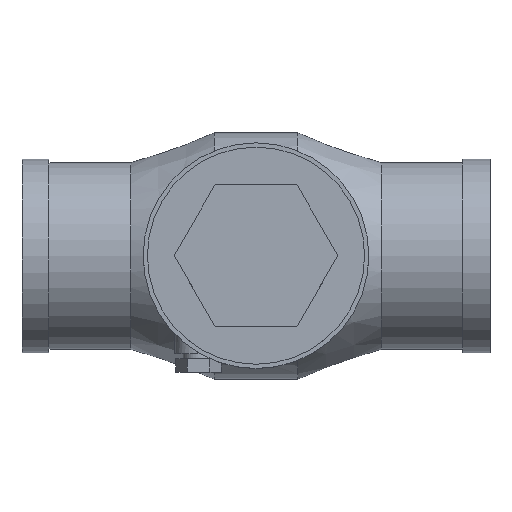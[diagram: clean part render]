
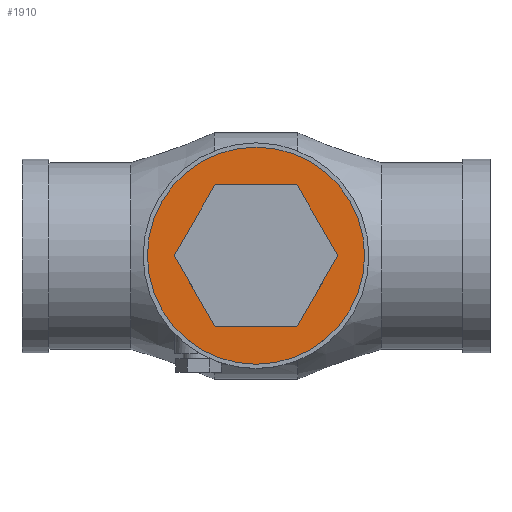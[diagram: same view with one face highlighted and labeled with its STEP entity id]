
A CAD part, top view. The second image highlights one B-rep face of the part: STEP entity #1910.
In plain terms, the highlighted planar face has unit normal (0, 0, 1).
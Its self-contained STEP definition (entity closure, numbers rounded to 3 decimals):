
#1910 = ADVANCED_FACE('',(#1911,#1951),#1924,.T.);
#1911 = FACE_BOUND('',#1912,.T.);
#1912 = EDGE_LOOP('',(#1913));
#1913 = ORIENTED_EDGE('',*,*,#1914,.F.);
#1914 = EDGE_CURVE('',#1915,#1915,#1917,.T.);
#1915 = VERTEX_POINT('',#1916);
#1916 = CARTESIAN_POINT('',(3.045,0.,1.67));
#1917 = SURFACE_CURVE('',#1918,(#1923,#1939),.PCURVE_S1.);
#1918 = CIRCLE('',#1919,0.965);
#1919 = AXIS2_PLACEMENT_3D('',#1920,#1921,#1922);
#1920 = CARTESIAN_POINT('',(2.08,0.,1.67));
#1921 = DIRECTION('',(0.,0.,-1.));
#1922 = DIRECTION('',(1.,0.,0.));
#1923 = PCURVE('',#1924,#1929);
#1924 = PLANE('',#1925);
#1925 = AXIS2_PLACEMENT_3D('',#1926,#1927,#1928);
#1926 = CARTESIAN_POINT('',(2.08,0.,1.67));
#1927 = DIRECTION('',(0.,0.,1.));
#1928 = DIRECTION('',(1.,0.,-0.));
#1929 = DEFINITIONAL_REPRESENTATION('',(#1930),#1938);
#1930 = ( BOUNDED_CURVE() B_SPLINE_CURVE(2,(#1931,#1932,#1933,#1934,
#1935,#1936,#1937),.UNSPECIFIED.,.T.,.F.) B_SPLINE_CURVE_WITH_KNOTS((1,2
    ,2,2,2,1),(-2.094,0.,2.094,4.189,
6.283,8.378),.UNSPECIFIED.) CURVE() 
GEOMETRIC_REPRESENTATION_ITEM() RATIONAL_B_SPLINE_CURVE((1.,0.5,1.,0.5,
1.,0.5,1.)) REPRESENTATION_ITEM('') );
#1931 = CARTESIAN_POINT('',(0.965,0.));
#1932 = CARTESIAN_POINT('',(0.965,-1.671));
#1933 = CARTESIAN_POINT('',(-0.483,-0.836));
#1934 = CARTESIAN_POINT('',(-1.93,0.));
#1935 = CARTESIAN_POINT('',(-0.483,0.836));
#1936 = CARTESIAN_POINT('',(0.965,1.671));
#1937 = CARTESIAN_POINT('',(0.965,0.));
#1938 = ( GEOMETRIC_REPRESENTATION_CONTEXT(2) 
PARAMETRIC_REPRESENTATION_CONTEXT() REPRESENTATION_CONTEXT('2D SPACE',''
  ) );
#1939 = PCURVE('',#1940,#1945);
#1940 = CYLINDRICAL_SURFACE('',#1941,0.965);
#1941 = AXIS2_PLACEMENT_3D('',#1942,#1943,#1944);
#1942 = CARTESIAN_POINT('',(2.08,0.,1.575));
#1943 = DIRECTION('',(0.,0.,1.));
#1944 = DIRECTION('',(1.,0.,-0.));
#1945 = DEFINITIONAL_REPRESENTATION('',(#1946),#1950);
#1946 = LINE('',#1947,#1948);
#1947 = CARTESIAN_POINT('',(6.283,0.095));
#1948 = VECTOR('',#1949,1.);
#1949 = DIRECTION('',(-1.,0.));
#1950 = ( GEOMETRIC_REPRESENTATION_CONTEXT(2) 
PARAMETRIC_REPRESENTATION_CONTEXT() REPRESENTATION_CONTEXT('2D SPACE',''
  ) );
#1951 = FACE_BOUND('',#1952,.T.);
#1952 = EDGE_LOOP('',(#1953,#1983,#2011,#2039,#2067,#2095));
#1953 = ORIENTED_EDGE('',*,*,#1954,.F.);
#1954 = EDGE_CURVE('',#1955,#1957,#1959,.T.);
#1955 = VERTEX_POINT('',#1956);
#1956 = CARTESIAN_POINT('',(1.716,-0.63,1.67));
#1957 = VERTEX_POINT('',#1958);
#1958 = CARTESIAN_POINT('',(2.444,-0.63,1.67));
#1959 = SURFACE_CURVE('',#1960,(#1964,#1971),.PCURVE_S1.);
#1960 = LINE('',#1961,#1962);
#1961 = CARTESIAN_POINT('',(1.716,-0.63,1.67));
#1962 = VECTOR('',#1963,1.);
#1963 = DIRECTION('',(1.,0.,0.));
#1964 = PCURVE('',#1924,#1965);
#1965 = DEFINITIONAL_REPRESENTATION('',(#1966),#1970);
#1966 = LINE('',#1967,#1968);
#1967 = CARTESIAN_POINT('',(-0.364,-0.63));
#1968 = VECTOR('',#1969,1.);
#1969 = DIRECTION('',(1.,0.));
#1970 = ( GEOMETRIC_REPRESENTATION_CONTEXT(2) 
PARAMETRIC_REPRESENTATION_CONTEXT() REPRESENTATION_CONTEXT('2D SPACE',''
  ) );
#1971 = PCURVE('',#1972,#1977);
#1972 = PLANE('',#1973);
#1973 = AXIS2_PLACEMENT_3D('',#1974,#1975,#1976);
#1974 = CARTESIAN_POINT('',(2.08,-0.63,1.67));
#1975 = DIRECTION('',(0.,-1.,0.));
#1976 = DIRECTION('',(1.,0.,0.));
#1977 = DEFINITIONAL_REPRESENTATION('',(#1978),#1982);
#1978 = LINE('',#1979,#1980);
#1979 = CARTESIAN_POINT('',(-0.364,0.));
#1980 = VECTOR('',#1981,1.);
#1981 = DIRECTION('',(1.,0.));
#1982 = ( GEOMETRIC_REPRESENTATION_CONTEXT(2) 
PARAMETRIC_REPRESENTATION_CONTEXT() REPRESENTATION_CONTEXT('2D SPACE',''
  ) );
#1983 = ORIENTED_EDGE('',*,*,#1984,.F.);
#1984 = EDGE_CURVE('',#1985,#1955,#1987,.T.);
#1985 = VERTEX_POINT('',#1986);
#1986 = CARTESIAN_POINT('',(1.353,0.,1.67));
#1987 = SURFACE_CURVE('',#1988,(#1992,#1999),.PCURVE_S1.);
#1988 = LINE('',#1989,#1990);
#1989 = CARTESIAN_POINT('',(1.353,0.,1.67));
#1990 = VECTOR('',#1991,1.);
#1991 = DIRECTION('',(0.5,-0.866,0.));
#1992 = PCURVE('',#1924,#1993);
#1993 = DEFINITIONAL_REPRESENTATION('',(#1994),#1998);
#1994 = LINE('',#1995,#1996);
#1995 = CARTESIAN_POINT('',(-0.727,0.));
#1996 = VECTOR('',#1997,1.);
#1997 = DIRECTION('',(0.5,-0.866));
#1998 = ( GEOMETRIC_REPRESENTATION_CONTEXT(2) 
PARAMETRIC_REPRESENTATION_CONTEXT() REPRESENTATION_CONTEXT('2D SPACE',''
  ) );
#1999 = PCURVE('',#2000,#2005);
#2000 = PLANE('',#2001);
#2001 = AXIS2_PLACEMENT_3D('',#2002,#2003,#2004);
#2002 = CARTESIAN_POINT('',(1.534,-0.315,1.67));
#2003 = DIRECTION('',(-0.866,-0.5,0.));
#2004 = DIRECTION('',(0.5,-0.866,0.));
#2005 = DEFINITIONAL_REPRESENTATION('',(#2006),#2010);
#2006 = LINE('',#2007,#2008);
#2007 = CARTESIAN_POINT('',(-0.364,0.));
#2008 = VECTOR('',#2009,1.);
#2009 = DIRECTION('',(1.,0.));
#2010 = ( GEOMETRIC_REPRESENTATION_CONTEXT(2) 
PARAMETRIC_REPRESENTATION_CONTEXT() REPRESENTATION_CONTEXT('2D SPACE',''
  ) );
#2011 = ORIENTED_EDGE('',*,*,#2012,.F.);
#2012 = EDGE_CURVE('',#2013,#1985,#2015,.T.);
#2013 = VERTEX_POINT('',#2014);
#2014 = CARTESIAN_POINT('',(1.716,0.63,1.67));
#2015 = SURFACE_CURVE('',#2016,(#2020,#2027),.PCURVE_S1.);
#2016 = LINE('',#2017,#2018);
#2017 = CARTESIAN_POINT('',(1.716,0.63,1.67));
#2018 = VECTOR('',#2019,1.);
#2019 = DIRECTION('',(-0.5,-0.866,0.));
#2020 = PCURVE('',#1924,#2021);
#2021 = DEFINITIONAL_REPRESENTATION('',(#2022),#2026);
#2022 = LINE('',#2023,#2024);
#2023 = CARTESIAN_POINT('',(-0.364,0.63));
#2024 = VECTOR('',#2025,1.);
#2025 = DIRECTION('',(-0.5,-0.866));
#2026 = ( GEOMETRIC_REPRESENTATION_CONTEXT(2) 
PARAMETRIC_REPRESENTATION_CONTEXT() REPRESENTATION_CONTEXT('2D SPACE',''
  ) );
#2027 = PCURVE('',#2028,#2033);
#2028 = PLANE('',#2029);
#2029 = AXIS2_PLACEMENT_3D('',#2030,#2031,#2032);
#2030 = CARTESIAN_POINT('',(1.534,0.315,1.67));
#2031 = DIRECTION('',(-0.866,0.5,0.));
#2032 = DIRECTION('',(-0.5,-0.866,0.));
#2033 = DEFINITIONAL_REPRESENTATION('',(#2034),#2038);
#2034 = LINE('',#2035,#2036);
#2035 = CARTESIAN_POINT('',(-0.364,0.));
#2036 = VECTOR('',#2037,1.);
#2037 = DIRECTION('',(1.,0.));
#2038 = ( GEOMETRIC_REPRESENTATION_CONTEXT(2) 
PARAMETRIC_REPRESENTATION_CONTEXT() REPRESENTATION_CONTEXT('2D SPACE',''
  ) );
#2039 = ORIENTED_EDGE('',*,*,#2040,.F.);
#2040 = EDGE_CURVE('',#2041,#2013,#2043,.T.);
#2041 = VERTEX_POINT('',#2042);
#2042 = CARTESIAN_POINT('',(2.444,0.63,1.67));
#2043 = SURFACE_CURVE('',#2044,(#2048,#2055),.PCURVE_S1.);
#2044 = LINE('',#2045,#2046);
#2045 = CARTESIAN_POINT('',(2.444,0.63,1.67));
#2046 = VECTOR('',#2047,1.);
#2047 = DIRECTION('',(-1.,0.,0.));
#2048 = PCURVE('',#1924,#2049);
#2049 = DEFINITIONAL_REPRESENTATION('',(#2050),#2054);
#2050 = LINE('',#2051,#2052);
#2051 = CARTESIAN_POINT('',(0.364,0.63));
#2052 = VECTOR('',#2053,1.);
#2053 = DIRECTION('',(-1.,0.));
#2054 = ( GEOMETRIC_REPRESENTATION_CONTEXT(2) 
PARAMETRIC_REPRESENTATION_CONTEXT() REPRESENTATION_CONTEXT('2D SPACE',''
  ) );
#2055 = PCURVE('',#2056,#2061);
#2056 = PLANE('',#2057);
#2057 = AXIS2_PLACEMENT_3D('',#2058,#2059,#2060);
#2058 = CARTESIAN_POINT('',(2.08,0.63,1.67));
#2059 = DIRECTION('',(0.,1.,0.));
#2060 = DIRECTION('',(-1.,0.,0.));
#2061 = DEFINITIONAL_REPRESENTATION('',(#2062),#2066);
#2062 = LINE('',#2063,#2064);
#2063 = CARTESIAN_POINT('',(-0.364,0.));
#2064 = VECTOR('',#2065,1.);
#2065 = DIRECTION('',(1.,0.));
#2066 = ( GEOMETRIC_REPRESENTATION_CONTEXT(2) 
PARAMETRIC_REPRESENTATION_CONTEXT() REPRESENTATION_CONTEXT('2D SPACE',''
  ) );
#2067 = ORIENTED_EDGE('',*,*,#2068,.F.);
#2068 = EDGE_CURVE('',#2069,#2041,#2071,.T.);
#2069 = VERTEX_POINT('',#2070);
#2070 = CARTESIAN_POINT('',(2.807,0.,1.67));
#2071 = SURFACE_CURVE('',#2072,(#2076,#2083),.PCURVE_S1.);
#2072 = LINE('',#2073,#2074);
#2073 = CARTESIAN_POINT('',(2.807,0.,1.67));
#2074 = VECTOR('',#2075,1.);
#2075 = DIRECTION('',(-0.5,0.866,0.));
#2076 = PCURVE('',#1924,#2077);
#2077 = DEFINITIONAL_REPRESENTATION('',(#2078),#2082);
#2078 = LINE('',#2079,#2080);
#2079 = CARTESIAN_POINT('',(0.727,0.));
#2080 = VECTOR('',#2081,1.);
#2081 = DIRECTION('',(-0.5,0.866));
#2082 = ( GEOMETRIC_REPRESENTATION_CONTEXT(2) 
PARAMETRIC_REPRESENTATION_CONTEXT() REPRESENTATION_CONTEXT('2D SPACE',''
  ) );
#2083 = PCURVE('',#2084,#2089);
#2084 = PLANE('',#2085);
#2085 = AXIS2_PLACEMENT_3D('',#2086,#2087,#2088);
#2086 = CARTESIAN_POINT('',(2.626,0.315,1.67));
#2087 = DIRECTION('',(0.866,0.5,0.));
#2088 = DIRECTION('',(-0.5,0.866,0.));
#2089 = DEFINITIONAL_REPRESENTATION('',(#2090),#2094);
#2090 = LINE('',#2091,#2092);
#2091 = CARTESIAN_POINT('',(-0.364,0.));
#2092 = VECTOR('',#2093,1.);
#2093 = DIRECTION('',(1.,0.));
#2094 = ( GEOMETRIC_REPRESENTATION_CONTEXT(2) 
PARAMETRIC_REPRESENTATION_CONTEXT() REPRESENTATION_CONTEXT('2D SPACE',''
  ) );
#2095 = ORIENTED_EDGE('',*,*,#2096,.F.);
#2096 = EDGE_CURVE('',#1957,#2069,#2097,.T.);
#2097 = SURFACE_CURVE('',#2098,(#2102,#2109),.PCURVE_S1.);
#2098 = LINE('',#2099,#2100);
#2099 = CARTESIAN_POINT('',(2.444,-0.63,1.67));
#2100 = VECTOR('',#2101,1.);
#2101 = DIRECTION('',(0.5,0.866,0.));
#2102 = PCURVE('',#1924,#2103);
#2103 = DEFINITIONAL_REPRESENTATION('',(#2104),#2108);
#2104 = LINE('',#2105,#2106);
#2105 = CARTESIAN_POINT('',(0.364,-0.63));
#2106 = VECTOR('',#2107,1.);
#2107 = DIRECTION('',(0.5,0.866));
#2108 = ( GEOMETRIC_REPRESENTATION_CONTEXT(2) 
PARAMETRIC_REPRESENTATION_CONTEXT() REPRESENTATION_CONTEXT('2D SPACE',''
  ) );
#2109 = PCURVE('',#2110,#2115);
#2110 = PLANE('',#2111);
#2111 = AXIS2_PLACEMENT_3D('',#2112,#2113,#2114);
#2112 = CARTESIAN_POINT('',(2.626,-0.315,1.67));
#2113 = DIRECTION('',(0.866,-0.5,0.));
#2114 = DIRECTION('',(0.5,0.866,0.));
#2115 = DEFINITIONAL_REPRESENTATION('',(#2116),#2120);
#2116 = LINE('',#2117,#2118);
#2117 = CARTESIAN_POINT('',(-0.364,0.));
#2118 = VECTOR('',#2119,1.);
#2119 = DIRECTION('',(1.,0.));
#2120 = ( GEOMETRIC_REPRESENTATION_CONTEXT(2) 
PARAMETRIC_REPRESENTATION_CONTEXT() REPRESENTATION_CONTEXT('2D SPACE',''
  ) );
